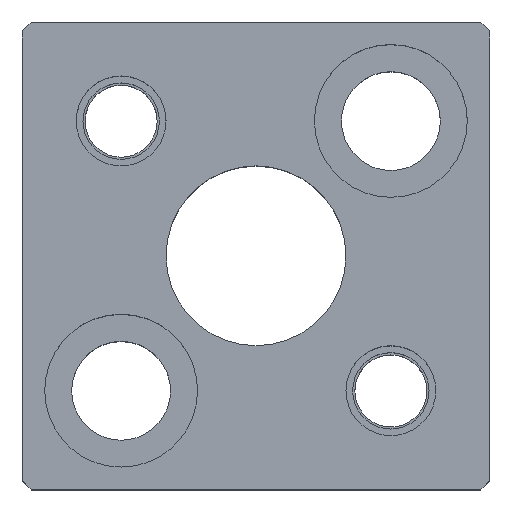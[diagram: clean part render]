
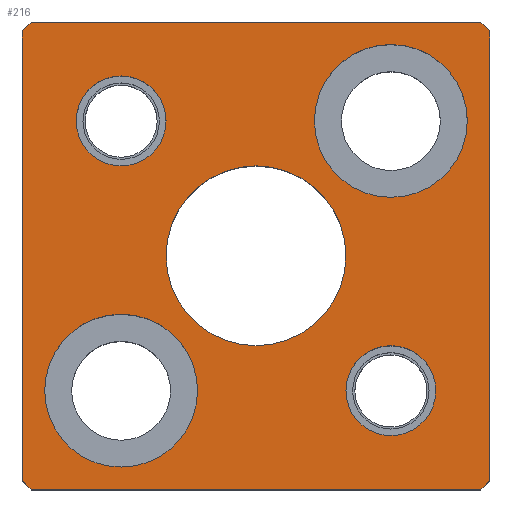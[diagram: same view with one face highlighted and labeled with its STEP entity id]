
A CAD part, top view. The second image highlights one B-rep face of the part: STEP entity #216.
In plain terms, the highlighted planar face has unit normal (0, 0, 1).
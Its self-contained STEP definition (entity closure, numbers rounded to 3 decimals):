
#100=FACE_BOUND('',#324,.T.);
#101=FACE_BOUND('',#325,.T.);
#102=FACE_BOUND('',#326,.T.);
#103=FACE_BOUND('',#327,.T.);
#104=FACE_BOUND('',#328,.T.);
#105=FACE_BOUND('',#329,.T.);
#147=CIRCLE('',#937,5.);
#149=CIRCLE('',#940,5.);
#151=CIRCLE('',#943,5.);
#153=CIRCLE('',#946,5.);
#163=CIRCLE('',#961,8.5);
#164=CIRCLE('',#962,8.5);
#165=CIRCLE('',#963,8.5);
#166=CIRCLE('',#964,8.5);
#167=CIRCLE('',#965,10.);
#168=CIRCLE('',#966,10.);
#216=ADVANCED_FACE('',(#100,#101,#102,#103,#104,#105),#255,.T.);
#255=PLANE('',#967);
#324=EDGE_LOOP('',(#459,#460,#461,#462,#463,#464,#465,#466));
#325=EDGE_LOOP('',(#467,#468));
#326=EDGE_LOOP('',(#469,#470));
#327=EDGE_LOOP('',(#471,#472));
#328=EDGE_LOOP('',(#473,#474));
#329=EDGE_LOOP('',(#475,#476));
#459=ORIENTED_EDGE('',*,*,#692,.T.);
#460=ORIENTED_EDGE('',*,*,#689,.T.);
#461=ORIENTED_EDGE('',*,*,#707,.T.);
#462=ORIENTED_EDGE('',*,*,#704,.T.);
#463=ORIENTED_EDGE('',*,*,#701,.T.);
#464=ORIENTED_EDGE('',*,*,#685,.T.);
#465=ORIENTED_EDGE('',*,*,#682,.T.);
#466=ORIENTED_EDGE('',*,*,#678,.T.);
#467=ORIENTED_EDGE('',*,*,#736,.F.);
#468=ORIENTED_EDGE('',*,*,#737,.F.);
#469=ORIENTED_EDGE('',*,*,#738,.F.);
#470=ORIENTED_EDGE('',*,*,#739,.F.);
#471=ORIENTED_EDGE('',*,*,#722,.F.);
#472=ORIENTED_EDGE('',*,*,#718,.F.);
#473=ORIENTED_EDGE('',*,*,#716,.F.);
#474=ORIENTED_EDGE('',*,*,#712,.F.);
#475=ORIENTED_EDGE('',*,*,#740,.T.);
#476=ORIENTED_EDGE('',*,*,#741,.T.);
#601=VERTEX_POINT('',#1286);
#602=VERTEX_POINT('',#1288);
#605=VERTEX_POINT('',#1296);
#607=VERTEX_POINT('',#1302);
#610=VERTEX_POINT('',#1309);
#611=VERTEX_POINT('',#1311);
#618=VERTEX_POINT('',#1334);
#620=VERTEX_POINT('',#1340);
#623=VERTEX_POINT('',#1355);
#624=VERTEX_POINT('',#1356);
#627=VERTEX_POINT('',#1367);
#628=VERTEX_POINT('',#1368);
#639=VERTEX_POINT('',#1403);
#640=VERTEX_POINT('',#1404);
#641=VERTEX_POINT('',#1407);
#642=VERTEX_POINT('',#1408);
#643=VERTEX_POINT('',#1411);
#644=VERTEX_POINT('',#1412);
#678=EDGE_CURVE('',#602,#601,#794,.T.);
#682=EDGE_CURVE('',#605,#602,#798,.T.);
#685=EDGE_CURVE('',#607,#605,#801,.T.);
#689=EDGE_CURVE('',#611,#610,#805,.T.);
#692=EDGE_CURVE('',#601,#611,#808,.T.);
#701=EDGE_CURVE('',#618,#607,#817,.T.);
#704=EDGE_CURVE('',#620,#618,#820,.T.);
#707=EDGE_CURVE('',#610,#620,#823,.T.);
#712=EDGE_CURVE('',#623,#624,#147,.T.);
#716=EDGE_CURVE('',#624,#623,#149,.T.);
#718=EDGE_CURVE('',#627,#628,#151,.T.);
#722=EDGE_CURVE('',#628,#627,#153,.T.);
#736=EDGE_CURVE('',#639,#640,#163,.T.);
#737=EDGE_CURVE('',#640,#639,#164,.T.);
#738=EDGE_CURVE('',#641,#642,#165,.T.);
#739=EDGE_CURVE('',#642,#641,#166,.T.);
#740=EDGE_CURVE('',#643,#644,#167,.T.);
#741=EDGE_CURVE('',#644,#643,#168,.T.);
#794=LINE('',#1287,#860);
#798=LINE('',#1295,#864);
#801=LINE('',#1301,#867);
#805=LINE('',#1310,#871);
#808=LINE('',#1316,#874);
#817=LINE('',#1333,#883);
#820=LINE('',#1339,#886);
#823=LINE('',#1345,#889);
#860=VECTOR('',#1025,1.);
#864=VECTOR('',#1031,1.);
#867=VECTOR('',#1036,1.);
#871=VECTOR('',#1042,1.);
#874=VECTOR('',#1047,1.);
#883=VECTOR('',#1062,1.);
#886=VECTOR('',#1067,1.);
#889=VECTOR('',#1072,1.);
#937=AXIS2_PLACEMENT_3D('',#1354,#1083,#1084);
#940=AXIS2_PLACEMENT_3D('',#1363,#1091,#1092);
#943=AXIS2_PLACEMENT_3D('',#1366,#1097,#1098);
#946=AXIS2_PLACEMENT_3D('',#1375,#1105,#1106);
#961=AXIS2_PLACEMENT_3D('',#1402,#1139,#1140);
#962=AXIS2_PLACEMENT_3D('',#1405,#1141,#1142);
#963=AXIS2_PLACEMENT_3D('',#1406,#1143,#1144);
#964=AXIS2_PLACEMENT_3D('',#1409,#1145,#1146);
#965=AXIS2_PLACEMENT_3D('',#1410,#1147,#1148);
#966=AXIS2_PLACEMENT_3D('',#1413,#1149,#1150);
#967=AXIS2_PLACEMENT_3D('',#1414,#1151,#1152);
#1025=DIRECTION('',(1.,0.,0.));
#1031=DIRECTION('',(0.707,-0.707,0.));
#1036=DIRECTION('',(0.,-1.,0.));
#1042=DIRECTION('',(0.,1.,0.));
#1047=DIRECTION('',(0.707,0.707,0.));
#1062=DIRECTION('',(-0.707,-0.707,0.));
#1067=DIRECTION('',(-1.,0.,0.));
#1072=DIRECTION('',(-0.707,0.707,0.));
#1083=DIRECTION('',(0.,0.,1.));
#1084=DIRECTION('',(-1.,0.,0.));
#1091=DIRECTION('',(0.,0.,1.));
#1092=DIRECTION('',(1.,0.,0.));
#1097=DIRECTION('',(0.,0.,1.));
#1098=DIRECTION('',(-1.,0.,0.));
#1105=DIRECTION('',(0.,0.,1.));
#1106=DIRECTION('',(1.,0.,0.));
#1139=DIRECTION('',(0.,0.,1.));
#1140=DIRECTION('',(1.,0.,0.));
#1141=DIRECTION('',(0.,0.,1.));
#1142=DIRECTION('',(-1.,0.,0.));
#1143=DIRECTION('',(0.,0.,1.));
#1144=DIRECTION('',(1.,0.,0.));
#1145=DIRECTION('',(0.,0.,1.));
#1146=DIRECTION('',(-1.,0.,0.));
#1147=DIRECTION('',(0.,0.,-1.));
#1148=DIRECTION('',(-1.,0.,0.));
#1149=DIRECTION('',(0.,0.,-1.));
#1150=DIRECTION('',(1.,0.,0.));
#1151=DIRECTION('',(0.,0.,1.));
#1152=DIRECTION('',(-1.,0.,0.));
#1286=CARTESIAN_POINT('',(25.,-26.,30.));
#1287=CARTESIAN_POINT('',(-25.,-26.,30.));
#1288=CARTESIAN_POINT('',(-25.,-26.,30.));
#1295=CARTESIAN_POINT('',(-25.,-26.,30.));
#1296=CARTESIAN_POINT('',(-26.,-25.,30.));
#1301=CARTESIAN_POINT('',(-26.,25.,30.));
#1302=CARTESIAN_POINT('',(-26.,25.,30.));
#1309=CARTESIAN_POINT('',(26.,25.,30.));
#1310=CARTESIAN_POINT('',(26.,25.,30.));
#1311=CARTESIAN_POINT('',(26.,-25.,30.));
#1316=CARTESIAN_POINT('',(26.,-25.,30.));
#1333=CARTESIAN_POINT('',(-26.,25.,30.));
#1334=CARTESIAN_POINT('',(-25.,26.,30.));
#1339=CARTESIAN_POINT('',(-25.,26.,30.));
#1340=CARTESIAN_POINT('',(25.,26.,30.));
#1345=CARTESIAN_POINT('',(25.,26.,30.));
#1354=CARTESIAN_POINT('',(15.,-15.,30.));
#1355=CARTESIAN_POINT('',(15.,-20.,30.));
#1356=CARTESIAN_POINT('',(15.,-10.,30.));
#1363=CARTESIAN_POINT('',(15.,-15.,30.));
#1366=CARTESIAN_POINT('',(-15.,15.,30.));
#1367=CARTESIAN_POINT('',(-15.,10.,30.));
#1368=CARTESIAN_POINT('',(-15.,20.,30.));
#1375=CARTESIAN_POINT('',(-15.,15.,30.));
#1402=CARTESIAN_POINT('',(15.,15.,30.));
#1403=CARTESIAN_POINT('',(15.,23.5,30.));
#1404=CARTESIAN_POINT('',(15.,6.5,30.));
#1405=CARTESIAN_POINT('',(15.,15.,30.));
#1406=CARTESIAN_POINT('',(-15.,-15.,30.));
#1407=CARTESIAN_POINT('',(-15.,-6.5,30.));
#1408=CARTESIAN_POINT('',(-15.,-23.5,30.));
#1409=CARTESIAN_POINT('',(-15.,-15.,30.));
#1410=CARTESIAN_POINT('',(0.,0.,30.));
#1411=CARTESIAN_POINT('',(0.,10.,30.));
#1412=CARTESIAN_POINT('',(0.,-10.,30.));
#1413=CARTESIAN_POINT('',(0.,0.,30.));
#1414=CARTESIAN_POINT('',(25.,-26.,30.));
